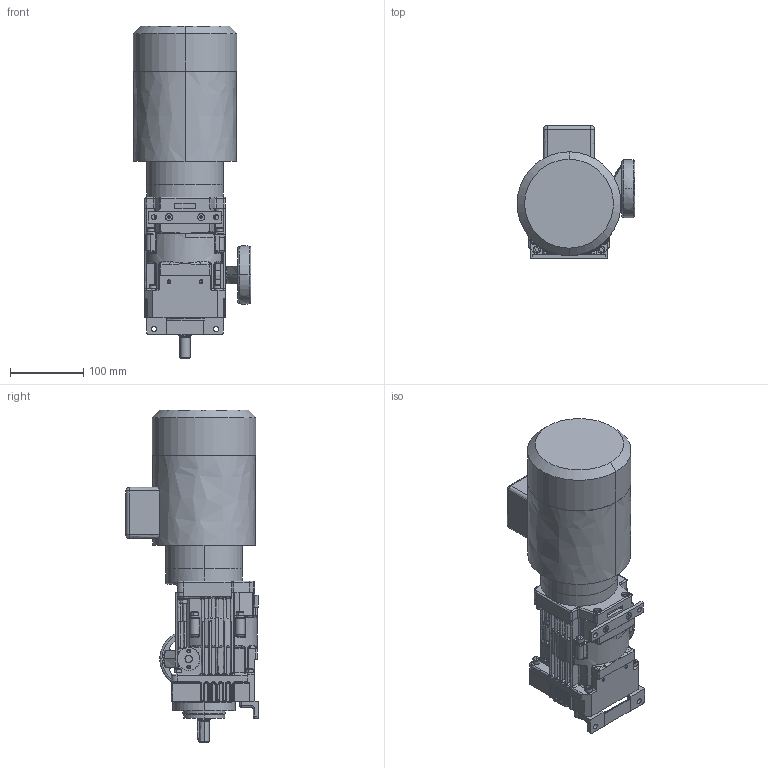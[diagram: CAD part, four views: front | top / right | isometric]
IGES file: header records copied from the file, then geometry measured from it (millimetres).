
Start section: Elysium IGES Interface
Global section: file name: G:\000_Arbeit\000_CAD\140_R4_Serie\01_ET_ZZ_US_SL\140_001_R4_Grundeinheit\R41_B3_HV_Motor_2D_3D.igs; native system: SolidDesigner 16.00A  16-Aug-2008; preprocessor: CoCreate IGES_3D V2.2; author: Unknown; organization: Unknown; date: 20081202.124931; units: millimetre
Bounding box: 161.01 x 181 x 454 mm (x, y, z)
Volume: 4942309.6 mm3; surface area: 356469.6 mm2
Topology: 2 solids, 3 shells, 1641 faces, 4011 edges, 2421 vertices
Faces by surface type: bspline 1641
